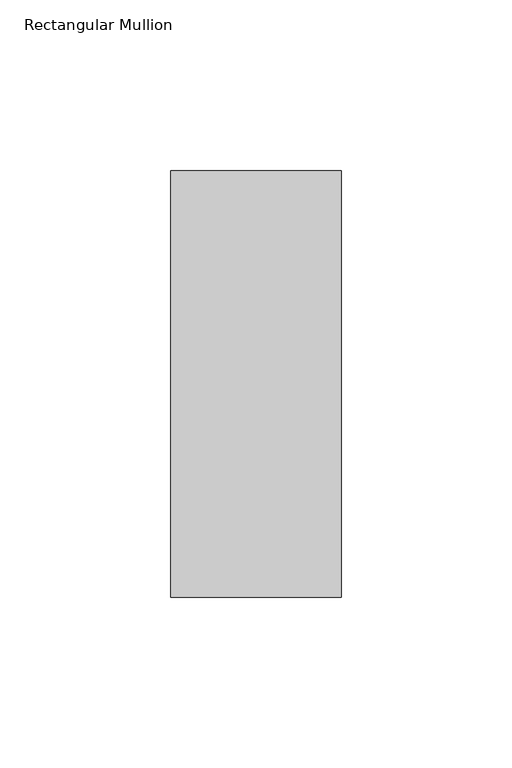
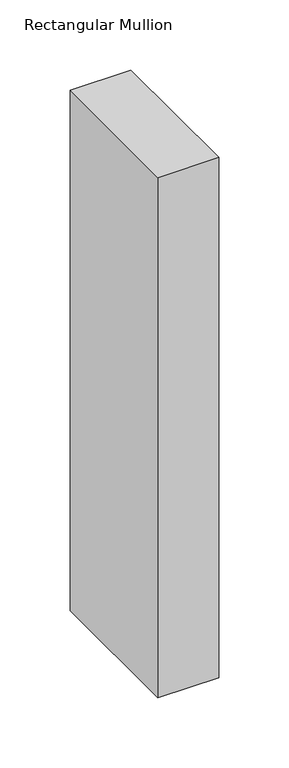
"""IFC4 building model written with IfcOpenShell, lengths in millimetres: member geometry, Rectangular Mullion : DucoSun Cubic Design profile 50x125 for louvre 300."""

from ifc_helpers import new_model, si_unit, frame, origin, place, context, project, spatial, polyline, outline, extrude, source, transform, mapped, element, save


def rectangular_mullion_43a89640(model_context):
    return source(origin(), model_context, "Body", "SweptSolid", [
        extrude(outline(polyline([(-50.0, -87.5), (0.0, -87.5), (0.0, -212.5), (-50.0, -212.5), (-50.0, -87.5)])), frame((0.0, 0.0, -452.4), z_axis=(0.0, 0.0, 1.0), x_axis=(1.0, 0.0, 0.0)), (0.0, 0.0, 1.0), 452.4),
    ])


if __name__ == "__main__":
    model = new_model("IFC4")
    model_context = context("Model", 3, world=origin())
    ifc_project = project(units=[si_unit("LENGTHUNIT", "METRE", prefix="MILLI")], contexts=[model_context])
    site = spatial("IfcSite", under=ifc_project)
    building = spatial("IfcBuilding", under=site)
    placement = place(None, origin())
    rectangular_mullion_shape = rectangular_mullion_43a89640(model_context)
    element("IfcMember", 1, ObjectType="Rectangular Mullion : DucoSun Cubic Design profile 50x125 for louvre 300", at=placement, inside=building, context=model_context, shape_type="MappedRepresentation", body=[
        mapped(rectangular_mullion_shape, transform((0.0, 0.0, 0.0), x_axis=(1.0, 0.0, 0.0), y_axis=(0.0, 1.0, 0.0), z_axis=(0.0, 0.0, 1.0))),
    ])
    save(model, "model.ifc")
